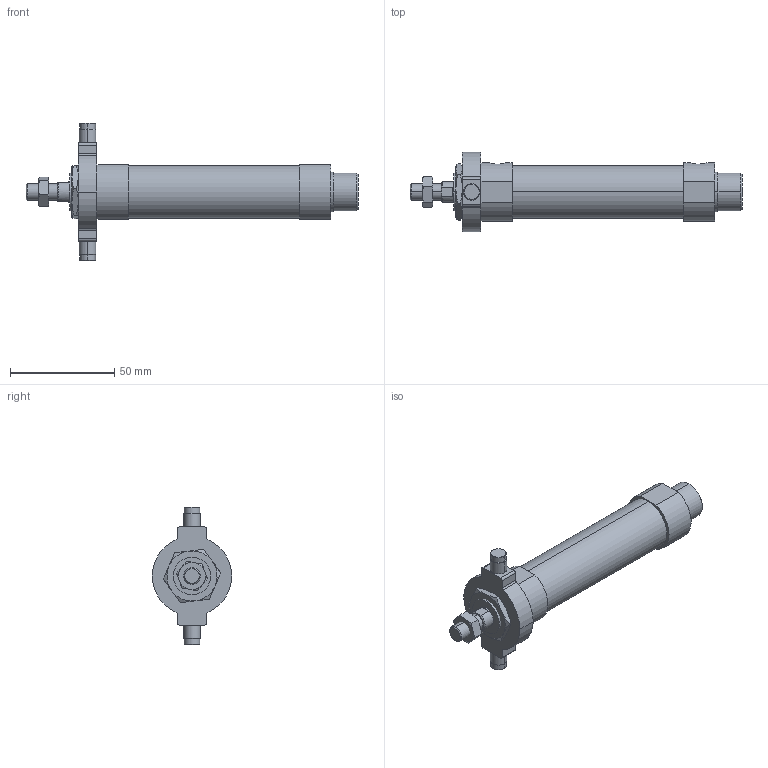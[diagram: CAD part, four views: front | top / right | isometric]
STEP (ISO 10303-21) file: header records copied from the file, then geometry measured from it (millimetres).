
FILE_DESCRIPTION (( 'STEP AP203' ), '1' );
FILE_NAME ('J#2-20-50-T.STEP', '2016-03-08T06:58:26', ( '' ), ( '' ), 'SwSTEP 2.0', 'SolidWorks 2014', '' );
FILE_SCHEMA (( 'CONFIG_CONTROL_DESIGN' ));
Length unit declared in the file: millimetre
Products named in the file (5): J#2-20-50; J#2-20-50-T; J#2-20-T
Assembly tree (4 placements, depth 2):
  J#2-20-50-T
    J#2-20-50
    (unnamed)
    (unnamed)
    J#2-20-T
Bounding box: 159 x 38 x 66 mm (x, y, z)
Volume: 75875.1 mm3; surface area: 18923.7 mm2
Topology: 4 solids, 4 shells, 131 faces, 291 edges, 180 vertices
Faces by surface type: cylinder 47, plane 46, torus 24, cone 14
Entity records: 4496 total; most frequent: CARTESIAN_POINT 1065, DIRECTION 639, ORIENTED_EDGE 582, EDGE_CURVE 291, AXIS2_PLACEMENT_3D 266, VERTEX_POINT 180, EDGE_LOOP 149, FACE_OUTER_BOUND 131
